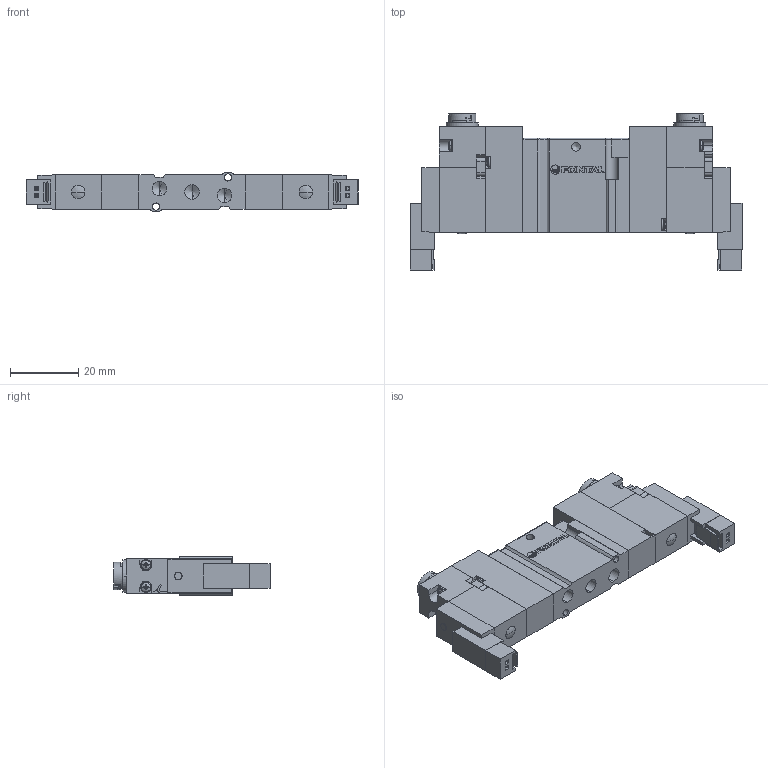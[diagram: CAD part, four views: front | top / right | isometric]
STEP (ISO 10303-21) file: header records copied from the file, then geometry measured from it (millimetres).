
FILE_DESCRIPTION (( 'STEP AP203' ), '1' );
FILE_NAME ('A05RD25#-#Q-#-E.STEP', '2016-02-04T02:07:12', ( 'Sam Lin' ), ( '' ), 'SwSTEP 2.0', 'SolidWorks 2013', '' );
FILE_SCHEMA (( 'CONFIG_CONTROL_DESIGN' ));
Length unit declared in the file: metre
Products named in the file (13): A05RS25-6; A05RS25-7; A05RS25-8-2; A05RS25-#-#-#; mark-ADEX-A05RS; A05RS25-2; A05RS25-9-2; ISO 7045 - M1.6 x 10; A05RS25-10-2; A05RS25-3; A05RD25#-#Q-#-E; A05RS25-4; A05RS25-5
Assembly tree (30 placements, depth 2):
  A05RD25#-#Q-#-E
    A05RS25-#-#-#
    A05RS25-2  x2
    ISO 7045 - M1.6 x 10  x8
    A05RS25-3  x2
    A05RS25-4  x2
    A05RS25-5  x2
    A05RS25-6  x4
    A05RS25-7  x2
    A05RS25-8-2  x2
    mark-ADEX-A05RS
    A05RS25-9-2  x2
    A05RS25-10-2  x2
Bounding box: 97 x 45.6 x 11.4 mm (x, y, z)
Volume: 23986.4 mm3; surface area: 16927.6 mm2
Topology: 38 solids, 38 shells, 993 faces, 2508 edges, 1591 vertices
Faces by surface type: plane 645, cylinder 182, cone 92, bspline 74
Entity records: 15934 total; most frequent: CARTESIAN_POINT 3260, ORIENTED_EDGE 2250, DIRECTION 2202, EDGE_CURVE 1125, LINE 796, VECTOR 796, VERTEX_POINT 733, AXIS2_PLACEMENT_3D 703
